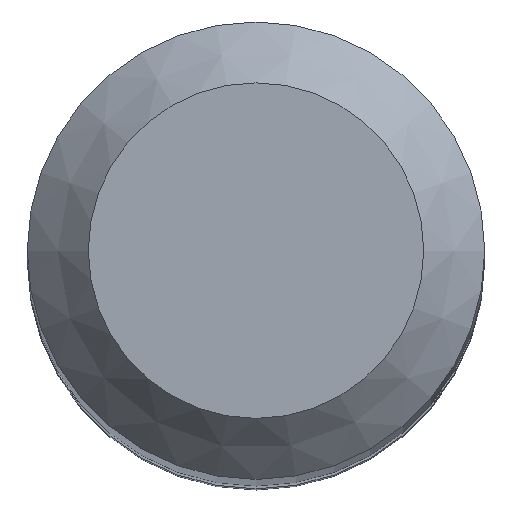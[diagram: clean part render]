
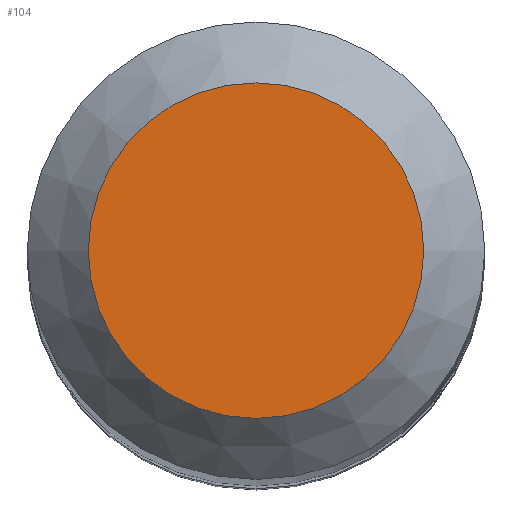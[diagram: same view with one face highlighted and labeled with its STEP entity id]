
A CAD part, top view. The second image highlights one B-rep face of the part: STEP entity #104.
In plain terms, the highlighted planar face has unit normal (0, 0, 1).
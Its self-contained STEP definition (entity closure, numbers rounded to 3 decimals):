
#88=CARTESIAN_POINT('',(2.2,0.0,80.0));
#89=DIRECTION('',(0.0,0.0,1.0));
#90=DIRECTION('',(1.0,0.0,0.0));
#91=AXIS2_PLACEMENT_3D('',#88,#89,#90);
#92=PLANE('',#91);
#93=CARTESIAN_POINT('',(-2.2,0.0,80.));
#94=VERTEX_POINT('',#93);
#95=CARTESIAN_POINT('',(0.0,0.0,80.));
#96=DIRECTION('',(0.0,0.0,-1.0));
#97=DIRECTION('',(-1.0,0.0,0.0));
#98=AXIS2_PLACEMENT_3D('',#95,#96,#97);
#99=CIRCLE('',#98,2.2);
#100=EDGE_CURVE('',#94,#94,#99,.T.);
#101=ORIENTED_EDGE('',*,*,#100,.F.);
#102=EDGE_LOOP('',(#101));
#103=FACE_OUTER_BOUND('',#102,.T.);
#104=ADVANCED_FACE('',(#103),#92,.T.);
